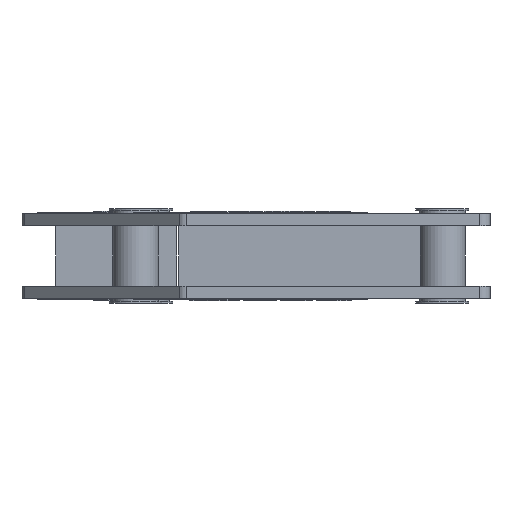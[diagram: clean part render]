
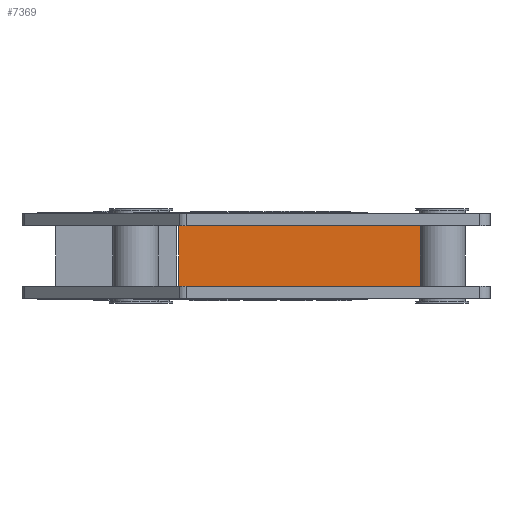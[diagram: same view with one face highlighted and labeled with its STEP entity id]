
A CAD part, front view. The second image highlights one B-rep face of the part: STEP entity #7369.
In plain terms, the highlighted planar face has unit normal (0, -1, 0).
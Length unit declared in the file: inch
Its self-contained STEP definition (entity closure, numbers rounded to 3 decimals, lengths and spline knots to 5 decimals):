
#2324 = CARTESIAN_POINT ( 'NONE',  ( -0.27032, -1.43485, 0.6 ) ) ;
#2351 = EDGE_CURVE ( 'NONE', #5930, #13355, #8252, .T. ) ;
#3066 = CARTESIAN_POINT ( 'NONE',  ( 1.72968, -1.43485, 0.6 ) ) ;
#3283 = CARTESIAN_POINT ( 'NONE',  ( -0.27032, -1.43485, 0.6 ) ) ;
#3343 = DIRECTION ( 'NONE',  ( 1., 0., 0. ) ) ;
#5474 = CARTESIAN_POINT ( 'NONE',  ( -0.27032, -1.43485, 0.1 ) ) ;
#5930 = VERTEX_POINT ( 'NONE', #17030 ) ;
#6904 = DIRECTION ( 'NONE',  ( 1., 0., 0. ) ) ;
#7369 = ADVANCED_FACE ( 'NONE', ( #18434 ), #16719, .T. ) ;
#7662 = AXIS2_PLACEMENT_3D ( 'NONE', #11582, #16790, #6904 ) ;
#8252 = LINE ( 'NONE', #2324, #12111 ) ;
#8586 = EDGE_LOOP ( 'NONE', ( #12549, #20073, #12480, #15706 ) ) ;
#8837 = LINE ( 'NONE', #3283, #19202 ) ;
#10409 = LINE ( 'NONE', #3066, #20767 ) ;
#11363 = EDGE_CURVE ( 'NONE', #17391, #19369, #19819, .T. ) ;
#11582 = CARTESIAN_POINT ( 'NONE',  ( -0.27032, -1.43485, 0.6 ) ) ;
#12111 = VECTOR ( 'NONE', #17442, 39.37008 ) ;
#12480 = ORIENTED_EDGE ( 'NONE', *, *, #14654, .T. ) ;
#12549 = ORIENTED_EDGE ( 'NONE', *, *, #13718, .F. ) ;
#13355 = VERTEX_POINT ( 'NONE', #20146 ) ;
#13718 = EDGE_CURVE ( 'NONE', #13355, #19369, #10409, .T. ) ;
#14564 = DIRECTION ( 'NONE',  ( 0., 0., -1. ) ) ;
#14654 = EDGE_CURVE ( 'NONE', #5930, #17391, #8837, .T. ) ;
#14850 = DIRECTION ( 'NONE',  ( 0., 0., -1. ) ) ;
#15706 = ORIENTED_EDGE ( 'NONE', *, *, #11363, .T. ) ;
#16353 = CARTESIAN_POINT ( 'NONE',  ( 1.72968, -1.43485, 0.1 ) ) ;
#16583 = CARTESIAN_POINT ( 'NONE',  ( -0.27032, -1.43485, 0.1 ) ) ;
#16719 = PLANE ( 'NONE',  #7662 ) ;
#16790 = DIRECTION ( 'NONE',  ( 0., -1., 0. ) ) ;
#17030 = CARTESIAN_POINT ( 'NONE',  ( -0.27032, -1.43485, 0.6 ) ) ;
#17391 = VERTEX_POINT ( 'NONE', #5474 ) ;
#17442 = DIRECTION ( 'NONE',  ( 1., 0., 0. ) ) ;
#18434 = FACE_OUTER_BOUND ( 'NONE', #8586, .T. ) ;
#19202 = VECTOR ( 'NONE', #14850, 39.37008 ) ;
#19369 = VERTEX_POINT ( 'NONE', #16353 ) ;
#19819 = LINE ( 'NONE', #16583, #20321 ) ;
#20073 = ORIENTED_EDGE ( 'NONE', *, *, #2351, .F. ) ;
#20146 = CARTESIAN_POINT ( 'NONE',  ( 1.72968, -1.43485, 0.6 ) ) ;
#20321 = VECTOR ( 'NONE', #3343, 39.37008 ) ;
#20767 = VECTOR ( 'NONE', #14564, 39.37008 ) ;
